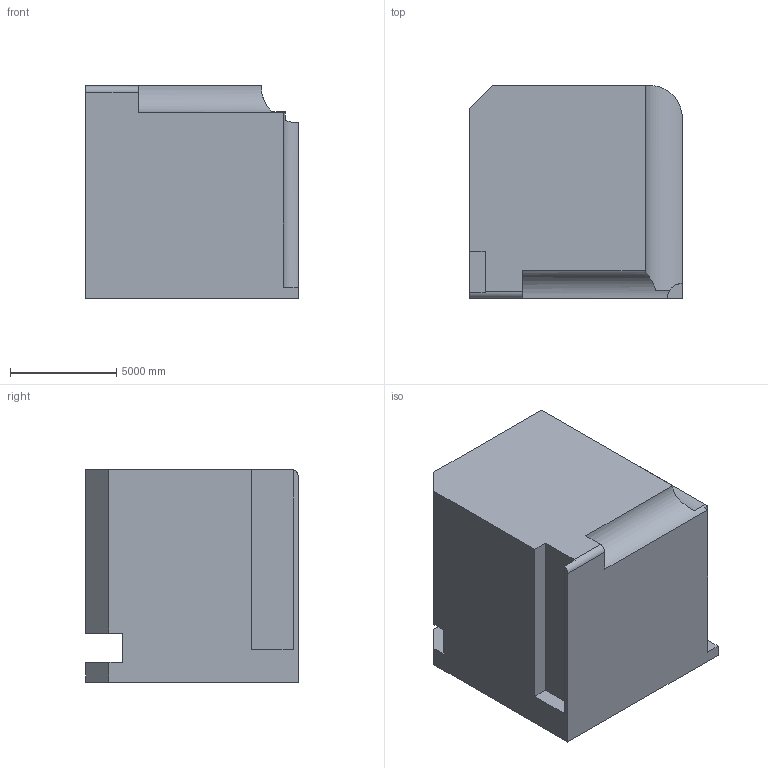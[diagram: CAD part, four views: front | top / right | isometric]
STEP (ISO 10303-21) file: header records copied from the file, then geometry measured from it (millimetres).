
FILE_DESCRIPTION (( 'STEP AP203' ), '1' );
FILE_NAME ('176.STEP', '2022-09-05T15:57:21', ( 'user' ), ( '' ), 'SwSTEP 2.0', 'SolidWorks 2021', '' );
FILE_SCHEMA (( 'CONFIG_CONTROL_DESIGN' ));
Length unit declared in the file: centimetre
Products named in the file (1): 176
Bounding box: 10000 x 10000 x 10000 mm (x, y, z)
Volume: 920889568682.2 mm3; surface area: 610270080.4 mm2
Topology: 1 solids, 1 shells, 25 faces, 69 edges, 46 vertices
Faces by surface type: plane 19, cylinder 6
Entity records: 1071 total; most frequent: CARTESIAN_POINT 350, ORIENTED_EDGE 138, DIRECTION 127, EDGE_CURVE 69, VECTOR 55, LINE 55, VERTEX_POINT 46, AXIS2_PLACEMENT_3D 36
